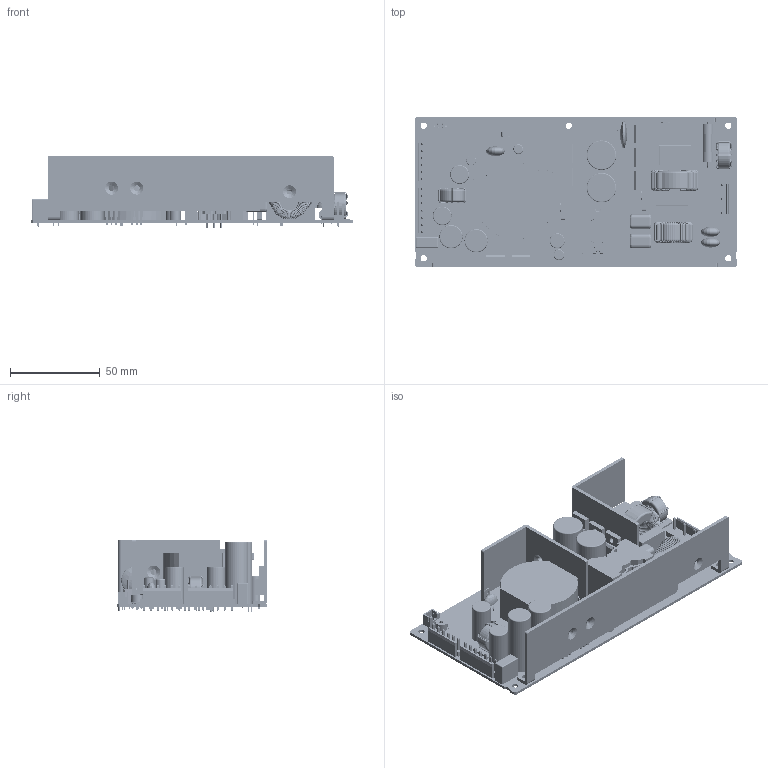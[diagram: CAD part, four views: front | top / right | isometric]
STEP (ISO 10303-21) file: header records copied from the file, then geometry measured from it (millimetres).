
FILE_DESCRIPTION((''),'2;1');
FILE_NAME('ASM0001_ASM','2016-08-29T',('ERIC.YP.CHEN'),(''),'PRO/ENGINEER BY PARAMETRIC TECHNOLOGY CORPORATION, 2010280','PRO/ENGINEER BY PARAMETRIC TECHNOLOGY CORPORATION, 2010280','');
FILE_SCHEMA(('CONFIG_CONTROL_DESIGN'));
Products named in the file (28): PWB; CON2_BODY; B2B-XH-A; B6P_VH; B7P_VH; VR1_; LEG1_; VR_LEG__ASM; HSK1; HSK2; HSK3; 242017402335_Q1; D10; 202013660108_D101; PRT0001; PRT0002; ASM0003_ASM; ASM0002_ASM; CY_1; NTC_HOLDER; NTC1_12; Z1; F1; 2875262201_FL2; 2875143500_FL1; 2875251901_FL1; C5; ASM0001_ASM
Assembly tree (39 placements, depth 4):
  ASM0001_ASM
    PWB
    CON2_BODY
    B2B-XH-A
    B6P_VH
    B7P_VH
    VR_LEG__ASM
      VR1_
      LEG1_  x3
    HSK1
    HSK2
    HSK3
    242017402335_Q1  x4
    D10
    202013660108_D101  x2
    ASM0002_ASM
      ASM0003_ASM
        PRT0001
        PRT0002  x2
    CY_1  x3
    NTC_HOLDER
    NTC1_12
    Z1  x2
    F1
    2875262201_FL2
    2875143500_FL1  x2
    2875251901_FL1
    C5  x2
Bounding box: 180 x 84 x 40.34 mm (x, y, z)
Volume: 162336 mm3; surface area: 107751.1 mm2
Topology: 61 solids, 61 shells, 4363 faces, 10849 edges, 6341 vertices
Faces by surface type: cylinder 1683, torus 1327, plane 1242, bspline 44, sphere 39, cone 16, revolution 12
Entity records: 143368 total; most frequent: CARTESIAN_POINT 48888, DIRECTION 21649, ORIENTED_EDGE 19172, EDGE_CURVE 9586, AXIS2_PLACEMENT_3D 8941, VERTEX_POINT 5627, CIRCLE 5068, EDGE_LOOP 3981
